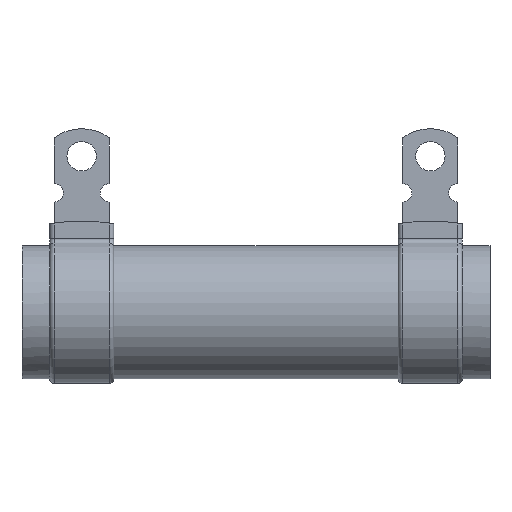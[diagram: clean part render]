
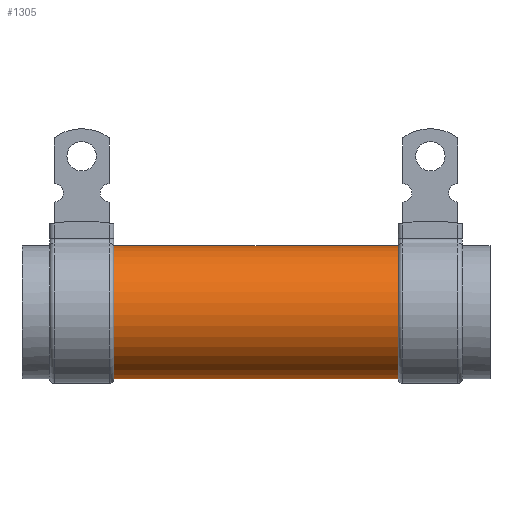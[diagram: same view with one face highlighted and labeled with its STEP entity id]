
A CAD part, left-side view. The second image highlights one B-rep face of the part: STEP entity #1305.
In plain terms, the highlighted cylindrical face has radius 7.25 mm (diameter 14.5 mm), a full revolution.
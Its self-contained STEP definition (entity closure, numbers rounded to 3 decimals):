
#50=CYLINDRICAL_SURFACE($,#1437,7.25);
#71=FACE_BOUND($,#213,.T.);
#129=FACE_OUTER_BOUND($,#212,.T.);
#212=EDGE_LOOP($,(#1016,#1017));
#213=EDGE_LOOP($,(#1018,#1019));
#469=CIRCLE($,#1422,7.25);
#473=CIRCLE($,#1436,7.25);
#474=CIRCLE($,#1438,7.25);
#475=CIRCLE($,#1439,7.25);
#564=VERTEX_POINT($,#2089);
#573=VERTEX_POINT($,#2123);
#580=VERTEX_POINT($,#2182);
#581=VERTEX_POINT($,#2183);
#717=EDGE_CURVE($,#564,#573,#469,.T.);
#733=EDGE_CURVE($,#573,#564,#473,.T.);
#734=EDGE_CURVE($,#580,#581,#474,.T.);
#735=EDGE_CURVE($,#581,#580,#475,.T.);
#1016=ORIENTED_EDGE($,*,*,#734,.T.);
#1017=ORIENTED_EDGE($,*,*,#735,.T.);
#1018=ORIENTED_EDGE($,*,*,#717,.T.);
#1019=ORIENTED_EDGE($,*,*,#733,.T.);
#1305=ADVANCED_FACE($,(#129,#71),#50,.T.);
#1422=AXIS2_PLACEMENT_3D($,#2132,#1720,#1721);
#1436=AXIS2_PLACEMENT_3D($,#2180,#1758,#1759);
#1437=AXIS2_PLACEMENT_3D($,#2181,#1760,#1761);
#1438=AXIS2_PLACEMENT_3D($,#2184,#1762,#1763);
#1439=AXIS2_PLACEMENT_3D($,#2185,#1764,#1765);
#1720=DIRECTION('center_axis',(0.,-1.,0.));
#1721=DIRECTION('ref_axis',(-1.,0.,0.));
#1758=DIRECTION('center_axis',(0.,-1.,0.));
#1759=DIRECTION('ref_axis',(-1.,0.,0.));
#1760=DIRECTION('center_axis',(0.,-1.,0.));
#1761=DIRECTION('ref_axis',(-1.,0.,0.));
#1762=DIRECTION('center_axis',(0.,1.,0.));
#1763=DIRECTION('ref_axis',(-1.,0.,0.));
#1764=DIRECTION('center_axis',(0.,1.,0.));
#1765=DIRECTION('ref_axis',(-1.,0.,0.));
#2089=CARTESIAN_POINT('',(-1.758,41.,7.034));
#2123=CARTESIAN_POINT('',(1.758,41.,7.034));
#2132=CARTESIAN_POINT('Origin',(0.,41.,0.));
#2180=CARTESIAN_POINT('Origin',(0.,41.,0.));
#2181=CARTESIAN_POINT('Origin',(0.,25.5,0.));
#2182=CARTESIAN_POINT('',(1.758,10.,7.034));
#2183=CARTESIAN_POINT('',(-1.758,10.,7.034));
#2184=CARTESIAN_POINT('Origin',(0.,10.,0.));
#2185=CARTESIAN_POINT('Origin',(0.,10.,0.));
